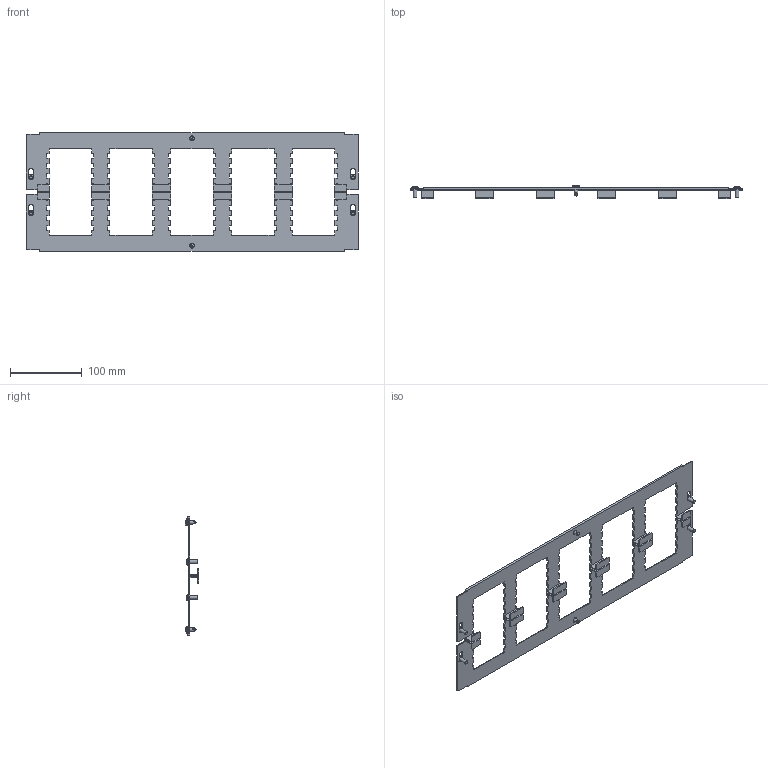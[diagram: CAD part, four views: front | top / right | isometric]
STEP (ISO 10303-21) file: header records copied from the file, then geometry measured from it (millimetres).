
FILE_DESCRIPTION(('Open CASCADE Model'),'2;1');
FILE_NAME('Open CASCADE Shape Model','2025-02-21T14:48:42',('Author'),( 'Open CASCADE'),'Open CASCADE STEP processor 7.8','Open CASCADE 7.8' ,'Unknown');
FILE_SCHEMA(('AUTOMOTIVE_DESIGN { 1 0 10303 214 1 1 1 1 }'));
Length unit declared in the file: millimetre
Products named in the file (4): Compound1; Solid1; Solid2; Solid3
Assembly tree (8 placements, depth 2):
  Compound1
    Solid1  x2
    Solid2  x2
    Solid3  x4
Bounding box: 464 x 19.31 x 165 mm (x, y, z)
Volume: 84264.3 mm3; surface area: 118346.5 mm2
Topology: 8 solids, 8 shells, 686 faces, 1938 edges, 1266 vertices
Faces by surface type: plane 620, cylinder 24, cone 14, torus 12, sphere 10, bspline 6
Full cylindrical faces by diameter (mm): 4.8 x2, 5 x4, 6 x2, 7 x2, 9.5 x6
Entity records: 11275 total; most frequent: CARTESIAN_POINT 2678, ORIENTED_EDGE 1866, DIRECTION 1609, EDGE_CURVE 933, LINE 855, VECTOR 855, VERTEX_POINT 616, AXIS2_PLACEMENT_3D 377
